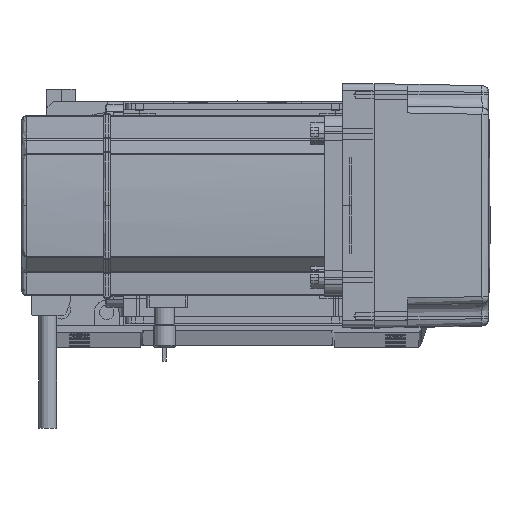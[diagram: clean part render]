
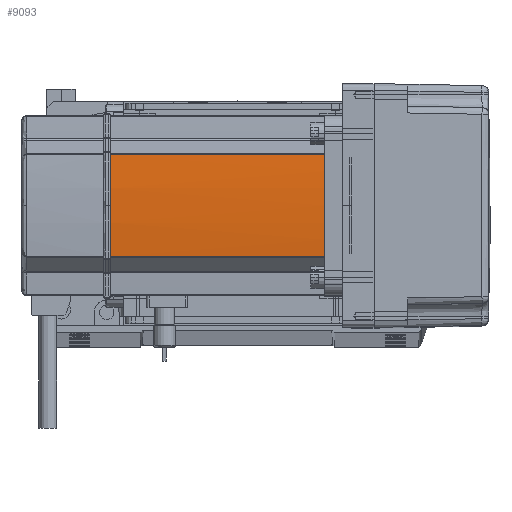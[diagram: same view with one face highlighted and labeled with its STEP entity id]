
A CAD part, top view. The second image highlights one B-rep face of the part: STEP entity #9093.
In plain terms, the highlighted cylindrical face has radius 270 mm (diameter 540 mm), a partial arc.
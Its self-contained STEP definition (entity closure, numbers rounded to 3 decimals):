
#57 = VECTOR ( 'NONE', #55029, 1000. ) ;
#1931 = CARTESIAN_POINT ( 'NONE',  ( -39.042, 22.724, 0. ) ) ;
#5636 = VERTEX_POINT ( 'NONE', #49775 ) ;
#8484 = DIRECTION ( 'NONE',  ( 0., 0., 1. ) ) ;
#9013 = EDGE_CURVE ( 'NONE', #23130, #40287, #30848, .T. ) ;
#9093 = ADVANCED_FACE ( 'NONE', ( #14332 ), #66669, .T. ) ;
#9205 = AXIS2_PLACEMENT_3D ( 'NONE', #30288, #46602, #46819 ) ;
#10889 = CARTESIAN_POINT ( 'NONE',  ( -39.042, -22.724, 39. ) ) ;
#13800 = AXIS2_PLACEMENT_3D ( 'NONE', #56124, #8484, #19185 ) ;
#14179 = EDGE_LOOP ( 'NONE', ( #32207, #61336, #68155, #68734, #18295 ) ) ;
#14332 = FACE_OUTER_BOUND ( 'NONE', #14179, .T. ) ;
#14857 = LINE ( 'NONE', #60595, #53083 ) ;
#18295 = ORIENTED_EDGE ( 'NONE', *, *, #53140, .T. ) ;
#19185 = DIRECTION ( 'NONE',  ( 1., 0., 0. ) ) ;
#20109 = DIRECTION ( 'NONE',  ( 0., 0., -1. ) ) ;
#21378 = VERTEX_POINT ( 'NONE', #24074 ) ;
#23130 = VERTEX_POINT ( 'NONE', #45405 ) ;
#24074 = CARTESIAN_POINT ( 'NONE',  ( -39.042, -22.724, 134. ) ) ;
#26216 = AXIS2_PLACEMENT_3D ( 'NONE', #52966, #58257, #68974 ) ;
#30288 = CARTESIAN_POINT ( 'NONE',  ( 230., 0., 134. ) ) ;
#30848 = LINE ( 'NONE', #1931, #57 ) ;
#32207 = ORIENTED_EDGE ( 'NONE', *, *, #57492, .T. ) ;
#40287 = VERTEX_POINT ( 'NONE', #67645 ) ;
#42191 = EDGE_CURVE ( 'NONE', #5636, #23130, #48610, .T. ) ;
#45405 = CARTESIAN_POINT ( 'NONE',  ( -39.042, 22.724, 134. ) ) ;
#45933 = CARTESIAN_POINT ( 'NONE',  ( 230., 0., 134. ) ) ;
#46602 = DIRECTION ( 'NONE',  ( 0., 0., -1. ) ) ;
#46819 = DIRECTION ( 'NONE',  ( 1., 0., 0. ) ) ;
#48610 = CIRCLE ( 'NONE', #9205, 270. ) ;
#49155 = CIRCLE ( 'NONE', #65632, 270. ) ;
#49456 = CIRCLE ( 'NONE', #26216, 270. ) ;
#49775 = CARTESIAN_POINT ( 'NONE',  ( -40., 0., 134. ) ) ;
#52966 = CARTESIAN_POINT ( 'NONE',  ( 230., 0., 39. ) ) ;
#53083 = VECTOR ( 'NONE', #65506, 1000. ) ;
#53140 = EDGE_CURVE ( 'NONE', #62322, #21378, #14857, .T. ) ;
#55029 = DIRECTION ( 'NONE',  ( 0., 0., -1. ) ) ;
#56124 = CARTESIAN_POINT ( 'NONE',  ( 230., 0., 0. ) ) ;
#57492 = EDGE_CURVE ( 'NONE', #21378, #5636, #49155, .T. ) ;
#58257 = DIRECTION ( 'NONE',  ( 0., 0., -1. ) ) ;
#60595 = CARTESIAN_POINT ( 'NONE',  ( -39.042, -22.724, 0. ) ) ;
#61336 = ORIENTED_EDGE ( 'NONE', *, *, #42191, .T. ) ;
#62322 = VERTEX_POINT ( 'NONE', #10889 ) ;
#62639 = DIRECTION ( 'NONE',  ( 1., 0., 0. ) ) ;
#63381 = EDGE_CURVE ( 'NONE', #62322, #40287, #49456, .T. ) ;
#65506 = DIRECTION ( 'NONE',  ( 0., 0., 1. ) ) ;
#65632 = AXIS2_PLACEMENT_3D ( 'NONE', #45933, #20109, #62639 ) ;
#66669 = CYLINDRICAL_SURFACE ( 'NONE', #13800, 270. ) ;
#67645 = CARTESIAN_POINT ( 'NONE',  ( -39.042, 22.724, 39. ) ) ;
#68155 = ORIENTED_EDGE ( 'NONE', *, *, #9013, .T. ) ;
#68734 = ORIENTED_EDGE ( 'NONE', *, *, #63381, .F. ) ;
#68974 = DIRECTION ( 'NONE',  ( 1., 0., 0. ) ) ;
